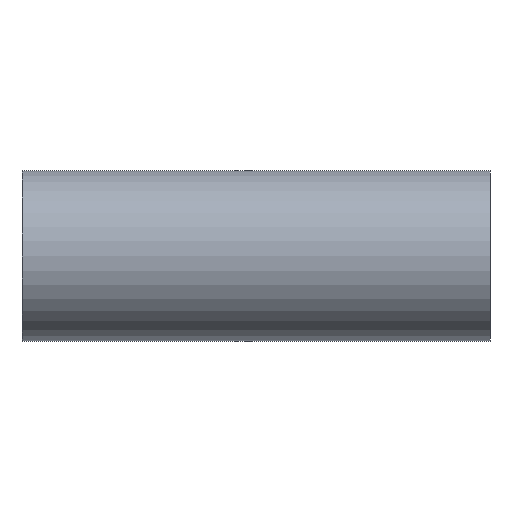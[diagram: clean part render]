
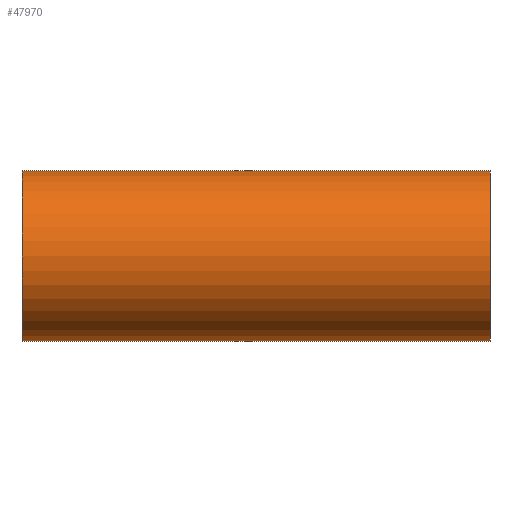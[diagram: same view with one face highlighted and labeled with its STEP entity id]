
A CAD part, front view. The second image highlights one B-rep face of the part: STEP entity #47970.
In plain terms, the highlighted cylindrical face has radius 111.125 mm (diameter 222.25 mm), a partial arc.
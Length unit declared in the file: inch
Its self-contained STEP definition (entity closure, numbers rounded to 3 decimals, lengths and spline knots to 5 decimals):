
#678 = ORIENTED_EDGE ( 'NONE', *, *, #34180, .F. ) ;
#900 = CARTESIAN_POINT ( 'NONE',  ( -12., 0., 4.375 ) ) ;
#2952 = VERTEX_POINT ( 'NONE', #13748 ) ;
#3672 = DIRECTION ( 'NONE',  ( -1., 0., 0. ) ) ;
#3948 = DIRECTION ( 'NONE',  ( 0., 0., -1. ) ) ;
#5481 = EDGE_CURVE ( 'NONE', #45225, #12900, #25489, .T. ) ;
#5598 = DIRECTION ( 'NONE',  ( 0., 0., 1. ) ) ;
#8140 = EDGE_LOOP ( 'NONE', ( #9028, #678, #25647, #34227 ) ) ;
#9028 = ORIENTED_EDGE ( 'NONE', *, *, #15071, .F. ) ;
#9883 = CYLINDRICAL_SURFACE ( 'NONE', #46608, 4.375 ) ;
#12900 = VERTEX_POINT ( 'NONE', #900 ) ;
#13748 = CARTESIAN_POINT ( 'NONE',  ( -12., 0., -4.375 ) ) ;
#15071 = EDGE_CURVE ( 'NONE', #43963, #2952, #18698, .T. ) ;
#15246 = EDGE_CURVE ( 'NONE', #12900, #2952, #17628, .T. ) ;
#15250 = CARTESIAN_POINT ( 'NONE',  ( -12., 0., 0. ) ) ;
#16159 = VECTOR ( 'NONE', #3672, 39.37008 ) ;
#17628 = CIRCLE ( 'NONE', #49742, 4.375 ) ;
#18698 = LINE ( 'NONE', #36257, #40560 ) ;
#25489 = LINE ( 'NONE', #43007, #16159 ) ;
#25647 = ORIENTED_EDGE ( 'NONE', *, *, #5481, .T. ) ;
#25771 = CARTESIAN_POINT ( 'NONE',  ( 12., 0., 0. ) ) ;
#27415 = CARTESIAN_POINT ( 'NONE',  ( 12., 0., 0. ) ) ;
#28678 = CARTESIAN_POINT ( 'NONE',  ( 12., 0., 4.375 ) ) ;
#32030 = AXIS2_PLACEMENT_3D ( 'NONE', #25771, #43278, #3948 ) ;
#32783 = DIRECTION ( 'NONE',  ( 1., 0., 0. ) ) ;
#34180 = EDGE_CURVE ( 'NONE', #45225, #43963, #56794, .T. ) ;
#34227 = ORIENTED_EDGE ( 'NONE', *, *, #15246, .T. ) ;
#36257 = CARTESIAN_POINT ( 'NONE',  ( 12., 0., -4.375 ) ) ;
#40560 = VECTOR ( 'NONE', #53766, 39.37008 ) ;
#43007 = CARTESIAN_POINT ( 'NONE',  ( 12., 0., 4.375 ) ) ;
#43278 = DIRECTION ( 'NONE',  ( 1., 0., 0. ) ) ;
#43963 = VERTEX_POINT ( 'NONE', #48256 ) ;
#44935 = DIRECTION ( 'NONE',  ( -1., 0., 0. ) ) ;
#45225 = VERTEX_POINT ( 'NONE', #28678 ) ;
#46608 = AXIS2_PLACEMENT_3D ( 'NONE', #27415, #44935, #5598 ) ;
#47970 = ADVANCED_FACE ( 'NONE', ( #49246 ), #9883, .T. ) ;
#48256 = CARTESIAN_POINT ( 'NONE',  ( 12., 0., -4.375 ) ) ;
#49246 = FACE_OUTER_BOUND ( 'NONE', #8140, .T. ) ;
#49742 = AXIS2_PLACEMENT_3D ( 'NONE', #15250, #32783, #50315 ) ;
#50315 = DIRECTION ( 'NONE',  ( 0., 0., -1. ) ) ;
#53766 = DIRECTION ( 'NONE',  ( -1., 0., 0. ) ) ;
#56794 = CIRCLE ( 'NONE', #32030, 4.375 ) ;
